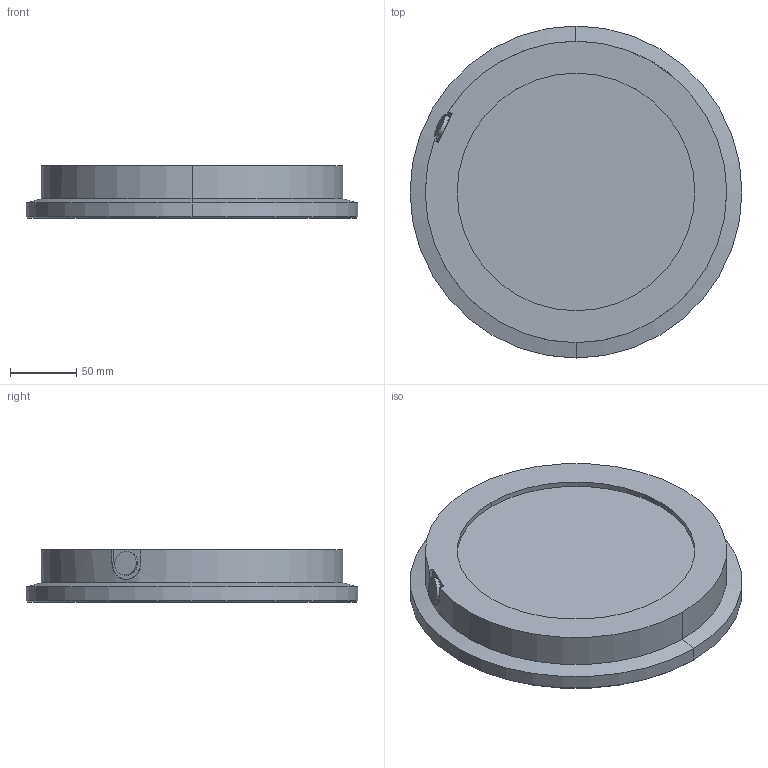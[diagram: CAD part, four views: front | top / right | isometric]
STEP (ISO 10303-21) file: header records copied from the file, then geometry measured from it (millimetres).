
FILE_DESCRIPTION (( 'STEP AP214' ), '1' );
FILE_NAME ('IRB760_445-318_LINK6_CAD_rev01.STEP', '2020-01-31T12:17:12', ( '' ), ( '' ), 'SwSTEP 2.0', 'SolidWorks 2018', '' );
FILE_SCHEMA (( 'AUTOMOTIVE_DESIGN' ));
Length unit declared in the file: millimetre
Products named in the file (2): IRB760_445-318_LINK6_CAD_rev01
Bounding box: 250 x 250 x 39.5 mm (x, y, z)
Volume: 1340023.3 mm3; surface area: 151952.3 mm2
Topology: 1 solids, 1 shells, 128 faces, 288 edges, 154 vertices
Faces by surface type: cone 66, cylinder 49, plane 13
Entity records: 5015 total; most frequent: CARTESIAN_POINT 788, DIRECTION 641, ORIENTED_EDGE 520, EDGE_CURVE 260, AXIS2_PLACEMENT_3D 258, VERTEX_POINT 154, EDGE_LOOP 148, UNCERTAINTY_MEASURE_WITH_UNIT 131
